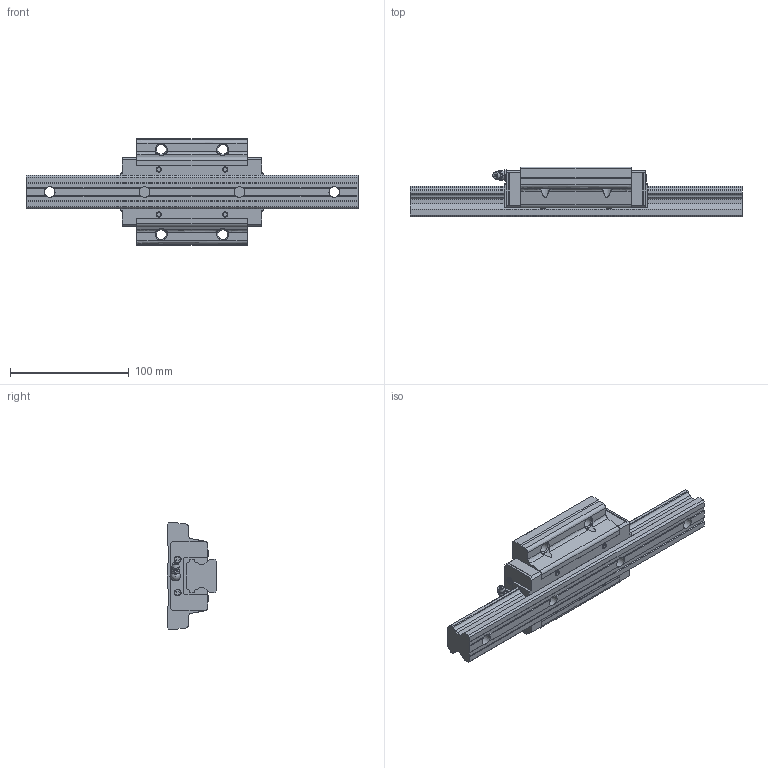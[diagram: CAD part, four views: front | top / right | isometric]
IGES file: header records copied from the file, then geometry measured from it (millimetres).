
Start section: Data from Parasolid IGES Translator 26.0.171, Copyright(c) 2006 Siemens PLM Software. All Rights Reserved.
Global section: file name: HSR30M1LA1SS-280L_G20_0_B-M6F_79-3_0_0_0_1.igs; native system: By Siemens PLM Incorporated; preprocessor: XPlus GENERIC/IGES 26.0.171; author: Noname; organization: Noname; date: 20240523.061213; units: millimetre
Bounding box: 280 x 42 x 90 mm (x, y, z)
Surface area: 74216.5 mm2 (no closed solid volume)
Topology: 0 solids, 0 shells, 277 faces, 1514 edges, 1450 vertices
Faces by surface type: extrusion 194, revolution 83
